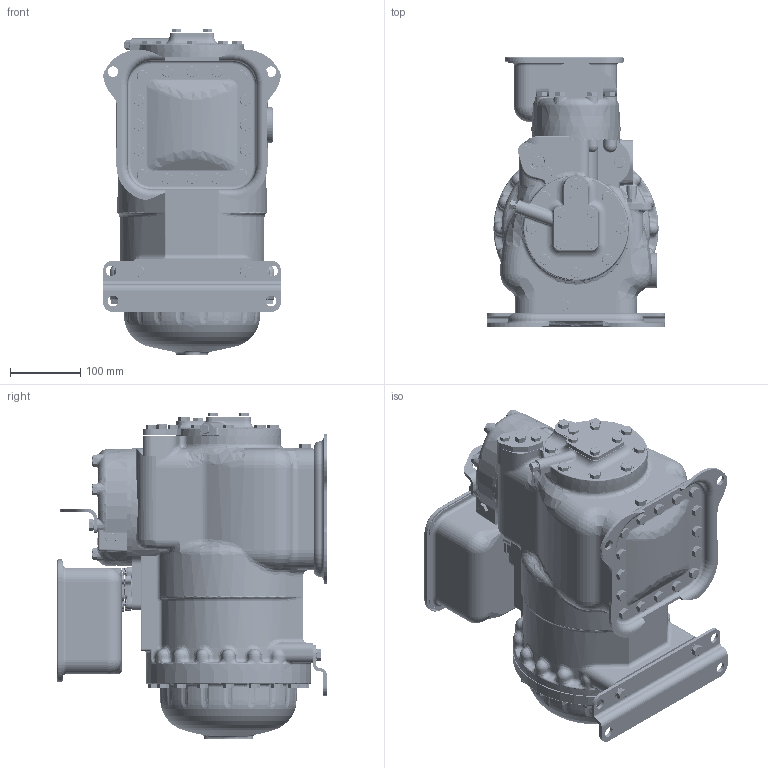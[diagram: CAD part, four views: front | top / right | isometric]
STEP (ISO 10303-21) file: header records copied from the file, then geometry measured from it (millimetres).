
FILE_DESCRIPTION((''),'2;1');
FILE_NAME('06D2_1PH','2011-05-16T',('cactfrq'),('CARRIER_CORP'),'PRO/ENGINEER BY PARAMETRIC TECHNOLOGY CORPORATION, 2010180','PRO/ENGINEER BY PARAMETRIC TECHNOLOGY CORPORATION, 2010180','');
FILE_SCHEMA(('CONFIG_CONTROL_DESIGN'));
Length unit declared in the file: inch
Products named in the file (1): 06D2_1PH
Bounding box: 254 x 384.94 x 465.91 mm (x, y, z)
Surface area: 1495570.2 mm2 (no closed solid volume)
Topology: 0 solids, 310 shells, 5146 faces, 16353 edges, 11325 vertices
Faces by surface type: plane 1739, cylinder 1209, bspline 826, cone 730, torus 493, sphere 149
Entity records: 233062 total; most frequent: CARTESIAN_POINT 95564, DIRECTION 27827, ORIENTED_EDGE 27441, EDGE_CURVE 16281, VERTEX_POINT 11324, AXIS2_PLACEMENT_3D 10834, CIRCLE 6514, VECTOR 6159
